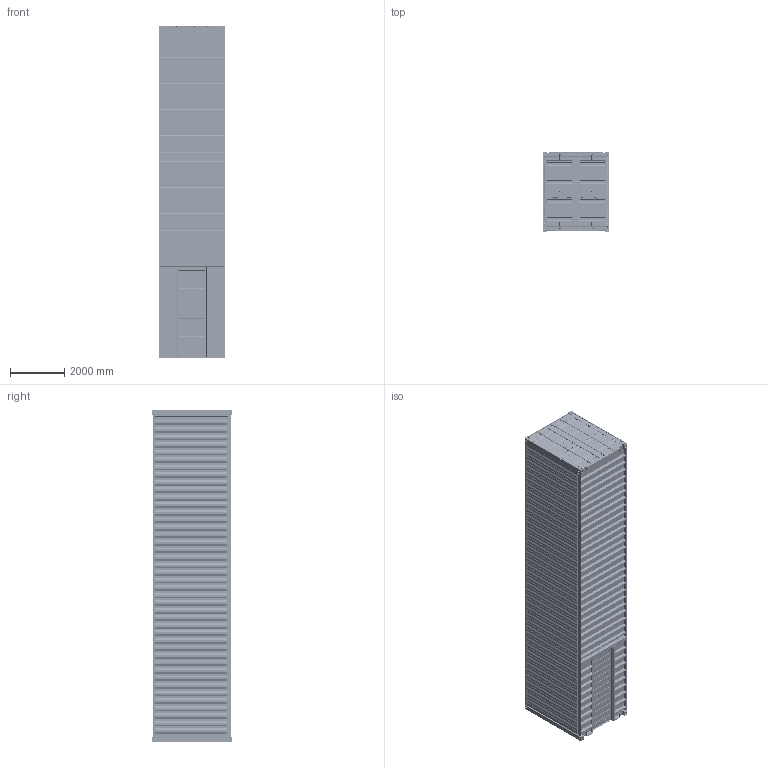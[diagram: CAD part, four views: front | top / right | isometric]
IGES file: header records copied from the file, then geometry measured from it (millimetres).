
Start section: SolidWorks IGES file using analytic representation for surfaces
Global section: file name: C:\Users\tride\Downloads\40ft-high-cube-shipping-container-2.snapshot.20\40 ft.IGS; native system: SolidWorks 2024; preprocessor: SolidWorks 2024; author: tride; date: 260116.161017; units: millimetre
Bounding box: 2438 x 2921.4 x 12192 mm (x, y, z)
Volume: 1037185842.1 mm3; surface area: 367627917 mm2
Topology: 274 solids, 274 shells, 16681 faces, 73126 edges, 91587 vertices
Faces by surface type: revolution 7816, plane 7055, bspline 1810
